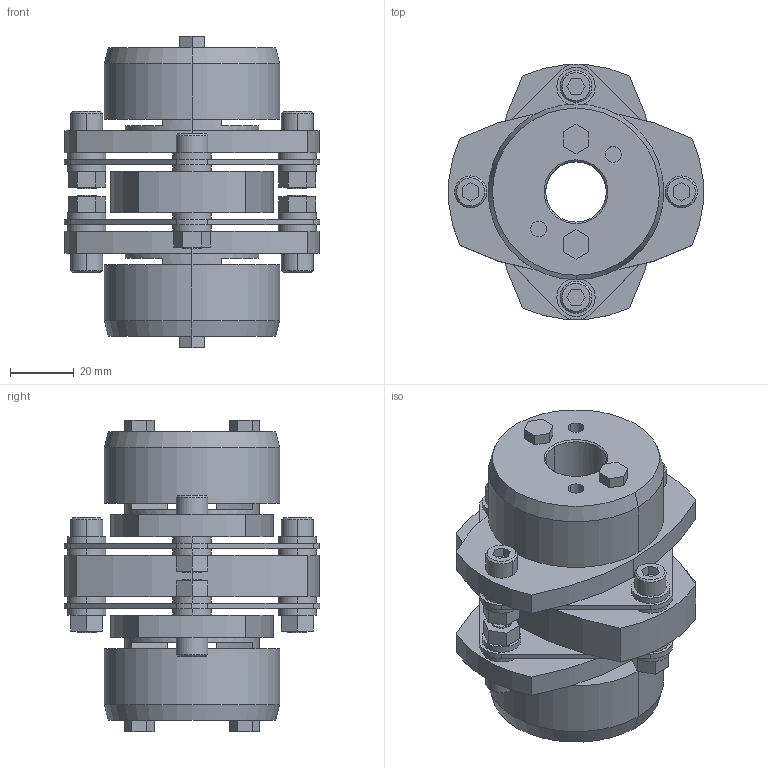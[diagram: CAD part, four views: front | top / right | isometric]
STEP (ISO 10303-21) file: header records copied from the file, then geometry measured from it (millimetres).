
FILE_DESCRIPTION((''),'2;1');
FILE_NAME('LCD-80T7-19×19.stp','2011-09-15T13:28:26',(''),(''),'AutoCAD STEP 2000i','AutoCAD 2000i',', , ');
FILE_SCHEMA(('CONFIG_CONTROL_DESIGN'));
Length unit declared in the file: millimetre
Products named in the file (7): LCD-80T7-19×19; 忣兜1; LC80T7-T019-1; LC80T7-T019; LC80T7-T017-1; LC80T7-T017; LCD80-ITA
Assembly tree (6 placements, depth 2):
  LCD-80T7-19×19
    忣兜1
    LC80T7-T019-1
    LC80T7-T019
    LC80T7-T017-1
    LC80T7-T017
    LCD80-ITA
Bounding box: 80 x 79.95 x 97.5 mm (x, y, z)
Volume: 192097.6 mm3; surface area: 58042.1 mm2
Topology: 1 solids, 1 shells, 306 faces, 744 edges, 488 vertices
Faces by surface type: plane 162, cylinder 120, cone 24
Entity records: 9247 total; most frequent: DIRECTION 1650, CARTESIAN_POINT 1545, ORIENTED_EDGE 1488, EDGE_CURVE 744, AXIS2_PLACEMENT_3D 593, VERTEX_POINT 488, VECTOR 464, LINE 464
